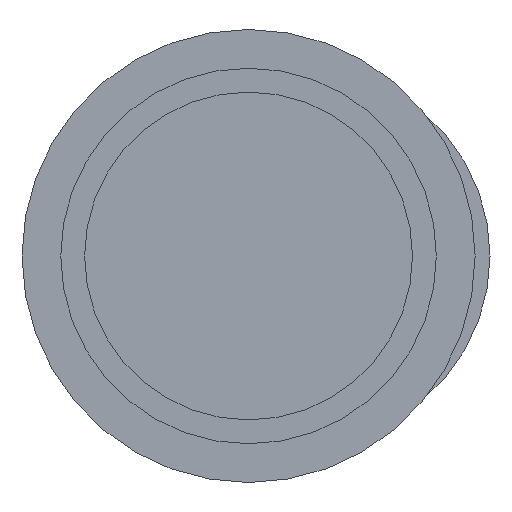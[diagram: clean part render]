
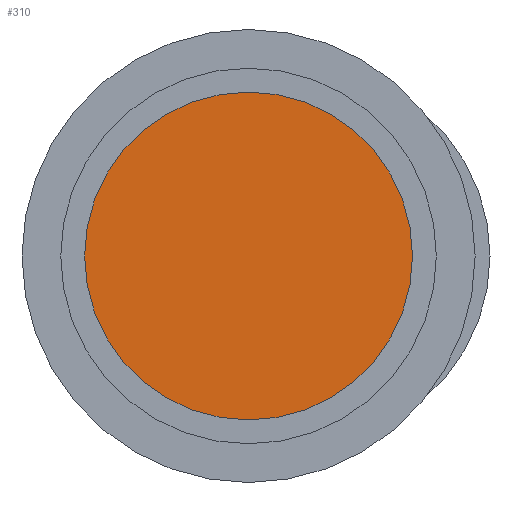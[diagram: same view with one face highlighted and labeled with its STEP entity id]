
A CAD part, left-side view. The second image highlights one B-rep face of the part: STEP entity #310.
In plain terms, the highlighted planar face has unit normal (-1, 0, 0).
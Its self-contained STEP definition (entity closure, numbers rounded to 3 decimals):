
#212=CARTESIAN_POINT('Vertex',(0.,0.,-27.5)) ;
#215=CARTESIAN_POINT('Axis2P3D Location',(0.,0.,0.)) ;
#219=CARTESIAN_POINT('Vertex',(0.,27.5,0.)) ;
#222=CARTESIAN_POINT('Axis2P3D Location',(0.,0.,0.)) ;
#226=CARTESIAN_POINT('Vertex',(0.,0.,27.5)) ;
#248=CARTESIAN_POINT('Axis2P3D Location',(0.,0.,0.)) ;
#252=CARTESIAN_POINT('Vertex',(0.,-27.5,0.)) ;
#255=CARTESIAN_POINT('Axis2P3D Location',(0.,0.,0.)) ;
#299=CARTESIAN_POINT('Axis2P3D Location',(0.,0.,0.)) ;
#216=DIRECTION('Axis2P3D Direction',(-1.,-0.,-0.)) ;
#223=DIRECTION('Axis2P3D Direction',(-1.,-0.,-0.)) ;
#249=DIRECTION('Axis2P3D Direction',(-1.,-0.,-0.)) ;
#256=DIRECTION('Axis2P3D Direction',(-1.,-0.,-0.)) ;
#300=DIRECTION('Axis2P3D Direction',(1.,0.,-0.)) ;
#301=DIRECTION('Axis2P3D XDirection',(0.,1.,0.)) ;
#217=AXIS2_PLACEMENT_3D('Circle Axis2P3D',#215,#216,$) ;
#224=AXIS2_PLACEMENT_3D('Circle Axis2P3D',#222,#223,$) ;
#250=AXIS2_PLACEMENT_3D('Circle Axis2P3D',#248,#249,$) ;
#257=AXIS2_PLACEMENT_3D('Circle Axis2P3D',#255,#256,$) ;
#302=AXIS2_PLACEMENT_3D('Plane Axis2P3D',#299,#300,#301) ;
#305=ORIENTED_EDGE('',*,*,#221,.F.) ;
#306=ORIENTED_EDGE('',*,*,#259,.F.) ;
#307=ORIENTED_EDGE('',*,*,#254,.F.) ;
#308=ORIENTED_EDGE('',*,*,#228,.F.) ;
#310=ADVANCED_FACE('395X-063-280/1',(#309),#303,.F.) ;
#218=CIRCLE('generated circle',#217,27.5) ;
#225=CIRCLE('generated circle',#224,27.5) ;
#251=CIRCLE('generated circle',#250,27.5) ;
#258=CIRCLE('generated circle',#257,27.5) ;
#221=EDGE_CURVE('',#213,#220,#218,.F.) ;
#228=EDGE_CURVE('',#220,#227,#225,.F.) ;
#254=EDGE_CURVE('',#227,#253,#251,.F.) ;
#259=EDGE_CURVE('',#253,#213,#258,.F.) ;
#304=EDGE_LOOP('',(#305,#306,#307,#308)) ;
#309=FACE_OUTER_BOUND('',#304,.T.) ;
#303=PLANE('Plane',#302) ;
#213=VERTEX_POINT('',#212) ;
#220=VERTEX_POINT('',#219) ;
#227=VERTEX_POINT('',#226) ;
#253=VERTEX_POINT('',#252) ;
